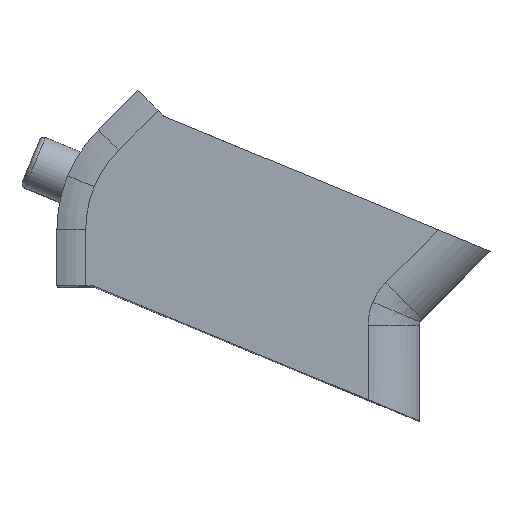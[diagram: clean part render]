
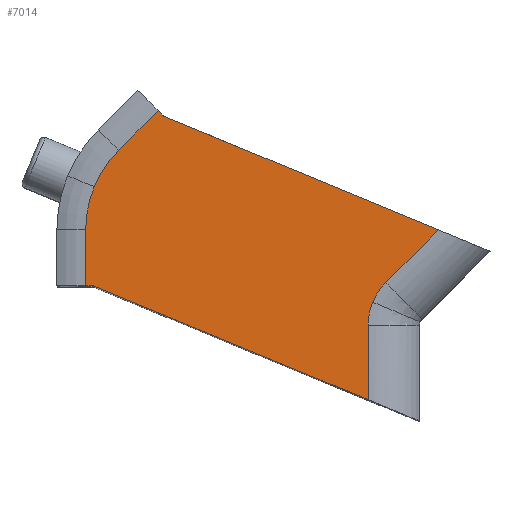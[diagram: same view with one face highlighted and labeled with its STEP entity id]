
A CAD part, top view. The second image highlights one B-rep face of the part: STEP entity #7014.
In plain terms, the highlighted planar face has unit normal (0, 0, 1).
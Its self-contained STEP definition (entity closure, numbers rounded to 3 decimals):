
#27 = ORIENTED_EDGE ( 'NONE', *, *, #8334, .T. ) ;
#38 = CARTESIAN_POINT ( 'NONE',  ( 12.629, 11.287, 0. ) ) ;
#72 = ORIENTED_EDGE ( 'NONE', *, *, #6089, .T. ) ;
#90 = LINE ( 'NONE', #38, #3264 ) ;
#418 = CARTESIAN_POINT ( 'NONE',  ( -0.355, 6.24, 0. ) ) ;
#434 = VERTEX_POINT ( 'NONE', #3900 ) ;
#607 = VECTOR ( 'NONE', #8102, 1000. ) ;
#617 = LINE ( 'NONE', #3575, #1089 ) ;
#619 = CARTESIAN_POINT ( 'NONE',  ( 12.7, 5.158, 0. ) ) ;
#658 = LINE ( 'NONE', #3614, #851 ) ;
#773 = DIRECTION ( 'NONE',  ( -1., 0., 0. ) ) ;
#804 = CARTESIAN_POINT ( 'NONE',  ( 12.629, 4.434, 0. ) ) ;
#831 = CARTESIAN_POINT ( 'NONE',  ( 1.162, 12.477, 0. ) ) ;
#851 = VECTOR ( 'NONE', #2164, 1000. ) ;
#1033 = DIRECTION ( 'NONE',  ( 0., -1., 0. ) ) ;
#1089 = VECTOR ( 'NONE', #8894, 1000. ) ;
#1105 = ORIENTED_EDGE ( 'NONE', *, *, #1969, .T. ) ;
#1115 = DIRECTION ( 'NONE',  ( 0.924, -0.383, 0. ) ) ;
#1161 = CARTESIAN_POINT ( 'NONE',  ( 0., 6.24, 0. ) ) ;
#1314 = B_SPLINE_CURVE_WITH_KNOTS ( 'NONE', 3,
 ( #8453, #5471, #8692, #3286 ),
 .UNSPECIFIED., .F., .F.,
 ( 4, 4 ),
 ( 0., 1. ),
 .UNSPECIFIED. ) ;
#1493 = VERTEX_POINT ( 'NONE', #418 ) ;
#1686 = ORIENTED_EDGE ( 'NONE', *, *, #4364, .F. ) ;
#1757 = LINE ( 'NONE', #4756, #8329 ) ;
#1949 = ORIENTED_EDGE ( 'NONE', *, *, #3841, .T. ) ;
#1960 = CARTESIAN_POINT ( 'NONE',  ( 2.983, 14.298, 0. ) ) ;
#1969 = EDGE_CURVE ( 'NONE', #8950, #6027, #5770, .T. ) ;
#2142 = DIRECTION ( 'NONE',  ( 0., 0., 1. ) ) ;
#2158 = VECTOR ( 'NONE', #4943, 1000. ) ;
#2164 = DIRECTION ( 'NONE',  ( -1., 0., 0. ) ) ;
#2539 = DIRECTION ( 'NONE',  ( -0.707, -0.707, 0. ) ) ;
#2641 = CARTESIAN_POINT ( 'NONE',  ( 12.629, 1.009, 0. ) ) ;
#2740 = CARTESIAN_POINT ( 'NONE',  ( 0.3, 11.426, 0. ) ) ;
#2850 = CARTESIAN_POINT ( 'NONE',  ( 0.039, 10.797, 0. ) ) ;
#3174 =( BOUNDED_CURVE ( )  B_SPLINE_CURVE ( 3, ( #5173, #619, #3577, #804 ),
 .UNSPECIFIED., .F., .F. ) 
 B_SPLINE_CURVE_WITH_KNOTS ( ( 4, 4 ),
 ( 2.749, 3.142 ),
 .UNSPECIFIED. ) 
 CURVE ( )  GEOMETRIC_REPRESENTATION_ITEM ( )  RATIONAL_B_SPLINE_CURVE ( ( 1., 0.987, 0.987, 1. ) ) 
 REPRESENTATION_ITEM ( '' )  );
#3193 = VECTOR ( 'NONE', #2539, 1000. ) ;
#3264 = VECTOR ( 'NONE', #6582, 1000. ) ;
#3286 = CARTESIAN_POINT ( 'NONE',  ( 13.441, 6.394, 0. ) ) ;
#3362 = LINE ( 'NONE', #7120, #9560 ) ;
#3525 = VERTEX_POINT ( 'NONE', #7439 ) ;
#3575 = CARTESIAN_POINT ( 'NONE',  ( 12.629, 1.009, 0. ) ) ;
#3577 = CARTESIAN_POINT ( 'NONE',  ( 12.629, 4.799, 0. ) ) ;
#3614 = CARTESIAN_POINT ( 'NONE',  ( -1.761, 6.24, 0. ) ) ;
#3616 = VERTEX_POINT ( 'NONE', #1161 ) ;
#3809 = CARTESIAN_POINT ( 'NONE',  ( 0.039, 10.797, 0. ) ) ;
#3841 = EDGE_CURVE ( 'NONE', #7691, #6675, #4804, .T. ) ;
#3900 = CARTESIAN_POINT ( 'NONE',  ( 12.629, 4.434, 0. ) ) ;
#4038 = LINE ( 'NONE', #9216, #3193 ) ;
#4086 = EDGE_CURVE ( 'NONE', #8303, #434, #90, .T. ) ;
#4154 = VERTEX_POINT ( 'NONE', #831 ) ;
#4179 = ORIENTED_EDGE ( 'NONE', *, *, #8390, .T. ) ;
#4364 = EDGE_CURVE ( 'NONE', #8303, #3616, #617, .T. ) ;
#4385 = EDGE_CURVE ( 'NONE', #3525, #7642, #1314, .T. ) ;
#4426 = CARTESIAN_POINT ( 'NONE',  ( -0.355, 8.816, 0. ) ) ;
#4480 = CARTESIAN_POINT ( 'NONE',  ( 3.234, 14.047, 0. ) ) ;
#4556 = VERTEX_POINT ( 'NONE', #8183 ) ;
#4756 = CARTESIAN_POINT ( 'NONE',  ( 3.234, 14.047, 0. ) ) ;
#4804 = B_SPLINE_CURVE_WITH_KNOTS ( 'NONE', 3,
 ( #2850, #6650, #9485, #5815 ),
 .UNSPECIFIED., .F., .F.,
 ( 4, 4 ),
 ( 0., 1. ),
 .UNSPECIFIED. ) ;
#4921 = CARTESIAN_POINT ( 'NONE',  ( 0.039, 10.797, 0. ) ) ;
#4943 = DIRECTION ( 'NONE',  ( -0.707, 0.707, 0. ) ) ;
#4968 = CARTESIAN_POINT ( 'NONE',  ( 1.162, 12.477, 0. ) ) ;
#5173 = CARTESIAN_POINT ( 'NONE',  ( 12.84, 5.495, 0. ) ) ;
#5198 = EDGE_CURVE ( 'NONE', #3525, #434, #3174, .T. ) ;
#5216 = ORIENTED_EDGE ( 'NONE', *, *, #8621, .F. ) ;
#5292 = ORIENTED_EDGE ( 'NONE', *, *, #5198, .F. ) ;
#5297 = FACE_OUTER_BOUND ( 'NONE', #8901, .T. ) ;
#5471 = CARTESIAN_POINT ( 'NONE',  ( 12.979, 5.831, 0. ) ) ;
#5695 = ORIENTED_EDGE ( 'NONE', *, *, #7533, .F. ) ;
#5770 = LINE ( 'NONE', #8756, #2158 ) ;
#5815 = CARTESIAN_POINT ( 'NONE',  ( -0.355, 8.816, 0. ) ) ;
#5918 = ORIENTED_EDGE ( 'NONE', *, *, #4385, .T. ) ;
#5981 = CARTESIAN_POINT ( 'NONE',  ( 16.654, 14.738, 0. ) ) ;
#6027 = VERTEX_POINT ( 'NONE', #1960 ) ;
#6057 = B_SPLINE_CURVE_WITH_KNOTS ( 'NONE', 3,
 ( #4968, #9368, #2740, #4921 ),
 .UNSPECIFIED., .F., .F.,
 ( 4, 4 ),
 ( 0., 1. ),
 .UNSPECIFIED. ) ;
#6089 = EDGE_CURVE ( 'NONE', #4154, #7691, #6057, .T. ) ;
#6582 = DIRECTION ( 'NONE',  ( 0., 1., 0. ) ) ;
#6650 = CARTESIAN_POINT ( 'NONE',  ( -0.221, 10.169, 0. ) ) ;
#6675 = VERTEX_POINT ( 'NONE', #4426 ) ;
#6710 = EDGE_CURVE ( 'NONE', #4556, #7642, #7410, .T. ) ;
#6737 = CARTESIAN_POINT ( 'NONE',  ( 13.441, 6.394, 0. ) ) ;
#6839 = ORIENTED_EDGE ( 'NONE', *, *, #4086, .T. ) ;
#6872 = ORIENTED_EDGE ( 'NONE', *, *, #6710, .F. ) ;
#7014 = ADVANCED_FACE ( 'NONE', ( #5297 ), #8233, .T. ) ;
#7120 = CARTESIAN_POINT ( 'NONE',  ( -0.355, 11.287, 0. ) ) ;
#7410 = LINE ( 'NONE', #7463, #607 ) ;
#7439 = CARTESIAN_POINT ( 'NONE',  ( 12.84, 5.495, 0. ) ) ;
#7463 = CARTESIAN_POINT ( 'NONE',  ( 13.441, 6.394, 0. ) ) ;
#7533 = EDGE_CURVE ( 'NONE', #3616, #1493, #658, .T. ) ;
#7642 = VERTEX_POINT ( 'NONE', #6737 ) ;
#7691 = VERTEX_POINT ( 'NONE', #3809 ) ;
#8102 = DIRECTION ( 'NONE',  ( -0.707, -0.707, 0. ) ) ;
#8159 = AXIS2_PLACEMENT_3D ( 'NONE', #5981, #2142, #773 ) ;
#8183 = CARTESIAN_POINT ( 'NONE',  ( 15.863, 8.816, 0. ) ) ;
#8233 = PLANE ( 'NONE',  #8159 ) ;
#8303 = VERTEX_POINT ( 'NONE', #2641 ) ;
#8329 = VECTOR ( 'NONE', #1115, 1000. ) ;
#8334 = EDGE_CURVE ( 'NONE', #6675, #1493, #3362, .T. ) ;
#8390 = EDGE_CURVE ( 'NONE', #6027, #4154, #4038, .T. ) ;
#8453 = CARTESIAN_POINT ( 'NONE',  ( 12.84, 5.495, 0. ) ) ;
#8621 = EDGE_CURVE ( 'NONE', #8950, #4556, #1757, .T. ) ;
#8692 = CARTESIAN_POINT ( 'NONE',  ( 13.183, 6.136, 0. ) ) ;
#8756 = CARTESIAN_POINT ( 'NONE',  ( 3.234, 14.047, 0. ) ) ;
#8894 = DIRECTION ( 'NONE',  ( -0.924, 0.383, 0. ) ) ;
#8901 = EDGE_LOOP ( 'NONE', ( #6872, #5216, #1105, #4179, #72, #1949, #27, #5695, #1686, #6839, #5292, #5918 ) ) ;
#8950 = VERTEX_POINT ( 'NONE', #4480 ) ;
#9216 = CARTESIAN_POINT ( 'NONE',  ( 2.983, 14.298, 0. ) ) ;
#9368 = CARTESIAN_POINT ( 'NONE',  ( 0.681, 11.996, 0. ) ) ;
#9485 = CARTESIAN_POINT ( 'NONE',  ( -0.355, 9.496, 0. ) ) ;
#9560 = VECTOR ( 'NONE', #1033, 1000. ) ;
